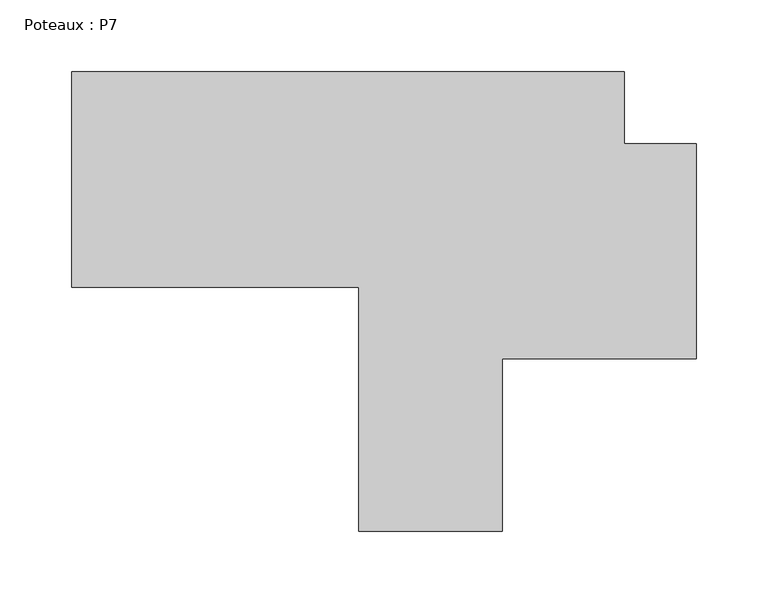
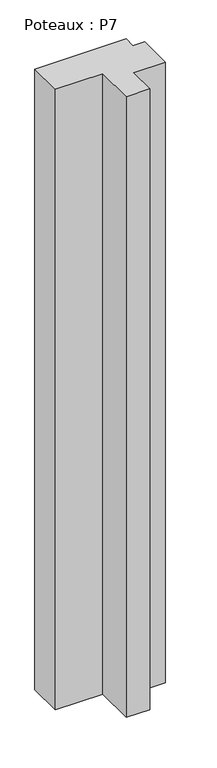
"""IFC4 building model written with IfcOpenShell, lengths in millimetres: column geometry, Poteaux : P7."""

from ifc_helpers import new_model, si_unit, frame, origin, place, context, project, spatial, polyline, outline, extrude, source, transform, mapped, element, save


def poteaux_p7_29867c90(model_context):
    return source(origin(), model_context, "Body", "SweptSolid", [
        extrude(outline(polyline([(-12475.5383156, 10716.6589873), (-12675.5383156, 10716.6589873), (-12675.5383156, 10866.6589873), (-12290.5383156, 10866.6589873), (-12290.5383156, 10816.6589873), (-12240.5383156, 10816.6589873), (-12240.5383156, 10666.6589873), (-12375.5383156, 10666.6589873), (-12375.5383156, 10546.6589873), (-12475.5383156, 10546.6589873), (-12475.5383156, 10716.6589873)])), frame((0.0, 0.0, -170.0), z_axis=(0.0, 0.0, 1.0), x_axis=(1.0, 0.0, 0.0)), (0.0, 0.0, 1.0), 2770.0),
    ])


if __name__ == "__main__":
    model = new_model("IFC4")
    model_context = context("Model", 3, world=origin())
    ifc_project = project(units=[si_unit("LENGTHUNIT", "METRE", prefix="MILLI")], contexts=[model_context])
    site = spatial("IfcSite", under=ifc_project)
    building = spatial("IfcBuilding", under=site)
    placement = place(None, origin())
    poteaux_p7_shape = poteaux_p7_29867c90(model_context)
    element("IfcColumn", 1, ObjectType="Poteaux : P7", at=placement, inside=building, context=model_context, shape_type="MappedRepresentation", body=[
        mapped(poteaux_p7_shape, transform((0.0, 0.0, 0.0), x_axis=(1.0, 0.0, 0.0), y_axis=(0.0, 1.0, 0.0), z_axis=(0.0, 0.0, 1.0))),
    ])
    save(model, "model.ifc")
